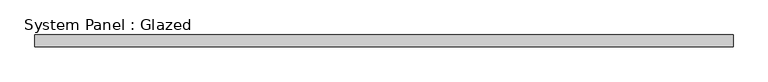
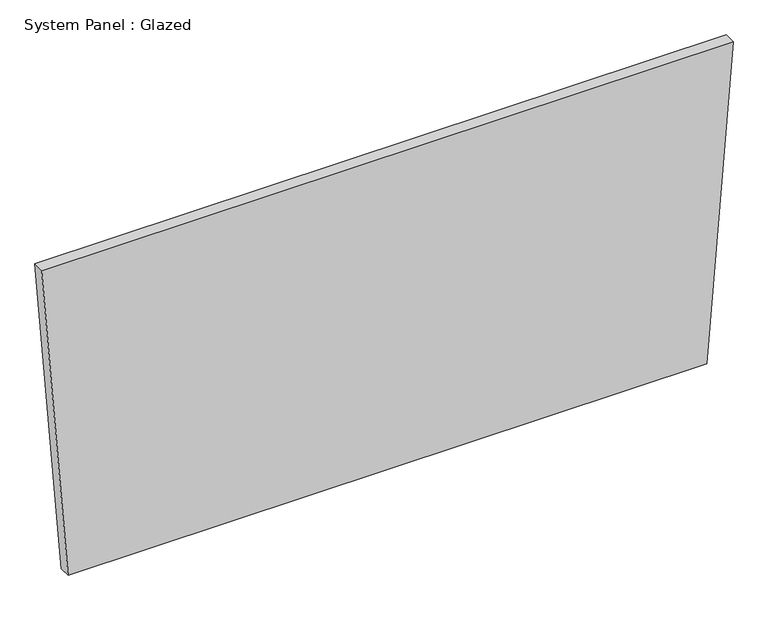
"""IFC4 building model written with IfcOpenShell, lengths in millimetres: plate geometry, System Panel : Glazed."""

from ifc_helpers import new_model, si_unit, frame, origin, place, context, project, spatial, polyline, outline, extrude, source, transform, mapped, element, save


def system_panel_glazed_966eeb3d(model_context):
    return source(origin(), model_context, "Body", "SweptSolid", [
        extrude(outline(polyline([(0.0074262, -696.2712809), (0.0, 696.2707755), (722.6286346, 753.7728779), (722.6297089, -753.7728779), (0.0074262, -696.2712809)])), frame((0.0, 19.05, 0.0), z_axis=(0.0, 1.0, 0.0), x_axis=(0.0, 0.0, 1.0)), (0.0, 0.0, 1.0), 25.4),
    ])


if __name__ == "__main__":
    model = new_model("IFC4")
    model_context = context("Model", 3, world=origin())
    ifc_project = project(units=[si_unit("LENGTHUNIT", "METRE", prefix="MILLI")], contexts=[model_context])
    site = spatial("IfcSite", under=ifc_project)
    building = spatial("IfcBuilding", under=site)
    placement = place(None, origin())
    system_panel_glazed_shape = system_panel_glazed_966eeb3d(model_context)
    element("IfcPlate", 1, ObjectType="System Panel : Glazed", at=placement, inside=building, context=model_context, shape_type="MappedRepresentation", body=[
        mapped(system_panel_glazed_shape, transform((0.0, 0.0, 0.0), x_axis=(1.0, 0.0, 0.0), y_axis=(0.0, 1.0, 0.0), z_axis=(0.0, 0.0, 1.0))),
    ])
    save(model, "model.ifc")
